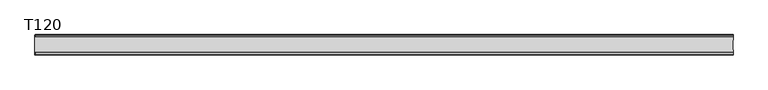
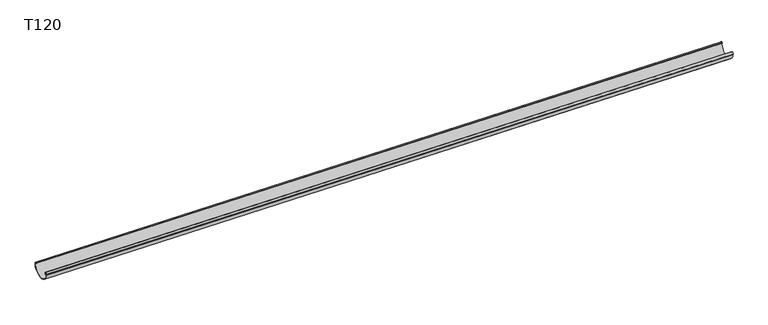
"""IFC4 building model written with IfcOpenShell, lengths in millimetres: proxy geometry, GROVIK_Gutter_Straight : T120."""

from ifc_helpers import new_model, si_unit, point, frame, frame_2d, origin, place, context, project, spatial, polyline, circle_curve, trimmed, segment, composite_curve, outline, extrude, source, transform, mapped, element, save


def t120_ba8461eb(model_context):
    return source(origin(), model_context, "Body", "SweptSolid", [
        extrude(outline(composite_curve([segment(trimmed(circle_curve(frame_2d((59.995059, -1.03)), 60.0), [point((119.2549128, -10.4251965))], [point((0.0, -1.8))], False, "CARTESIAN"), True, "CONTINUOUS"), segment(trimmed(circle_curve(frame_2d((1.8973666, -1.9)), 1.9), [point((0.0, -1.8))], [point((2.2000746, -0.0242687))], False, "CARTESIAN"), True, "CONTINUOUS"), segment(polyline([(2.2000746, -0.0242687), (9.9441961, -1.4092855), (9.7857475, -2.295228), (2.2975071, -0.9559749)]), True, "CONTINUOUS"), segment(trimmed(circle_curve(frame_2d((2.1038477, -2.0387934)), 1.1), [point((2.2975071, -0.9559749))], [point((1.0040147, -2.0579588))], True, "CARTESIAN"), True, "CONTINUOUS"), segment(trimmed(circle_curve(frame_2d((59.995059, -1.03)), 59.0), [point((1.0040147, -2.0579588))], [point((118.2672486, -10.26861))], True, "CARTESIAN"), True, "CONTINUOUS"), segment(polyline([(118.2672486, -10.26861), (119.0897552, -5.3813466)]), True, "CONTINUOUS"), segment(trimmed(circle_curve(frame_2d((112.495059, -5.1006666)), 6.6006666), [point((119.0897552, -5.3813466))], [point((116.9501607, -9.9710741))], True, "CARTESIAN"), True, "CONTINUOUS"), segment(trimmed(circle_curve(frame_2d((115.4100665, -8.6258488)), 2.0448768), [point((116.9501607, -9.9710741))], [point((117.4294315, -8.9478528))], True, "CARTESIAN"), True, "CONTINUOUS"), segment(polyline([(117.4294315, -8.9478528), (117.995059, -5.4006666), (118.8825779, -5.5500325), (118.3314375, -9.0063664)]), True, "CONTINUOUS"), segment(trimmed(circle_curve(frame_2d((115.141469, -8.4977002)), 3.2302694), [point((118.3314375, -9.0063664))], [point((117.5871118, -10.6080252))], False, "CARTESIAN"), True, "CONTINUOUS"), segment(trimmed(circle_curve(frame_2d((112.495059, -5.1006666)), 7.5006666), [point((117.5871118, -10.6080252))], [point((119.995059, -5.2006666))], False, "CARTESIAN"), True, "CONTINUOUS"), segment(polyline([(119.995059, -5.2006666), (119.2549128, -10.4251965)]), True, "CONTINUOUS")], self_intersect=False)), frame((4240.0, 0.0, -41.2), z_axis=(-0.9999500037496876, 0.0, 0.009999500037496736), x_axis=(0.0, -1.0, 0.0)), (0.0, 0.0, 1.0), 4120.2059949),
    ])


if __name__ == "__main__":
    model = new_model("IFC4")
    model_context = context("Model", 3, world=origin())
    ifc_project = project(units=[si_unit("LENGTHUNIT", "METRE", prefix="MILLI")], contexts=[model_context])
    site = spatial("IfcSite", under=ifc_project)
    building = spatial("IfcBuilding", under=site)
    placement = place(None, origin())
    t120_shape = t120_ba8461eb(model_context)
    element("IfcBuildingElementProxy", 1, Name="GROVIK_Gutter_Straight : T120", ObjectType="GROVIK_Gutter_Straight : T120", at=placement, inside=building, context=model_context, shape_type="MappedRepresentation", body=[
        mapped(t120_shape, transform((0.0, 0.0, 0.0), x_axis=(1.0, 0.0, 0.0), y_axis=(0.0, 1.0, 0.0), z_axis=(0.0, 0.0, 1.0))),
    ])
    save(model, "model.ifc")
